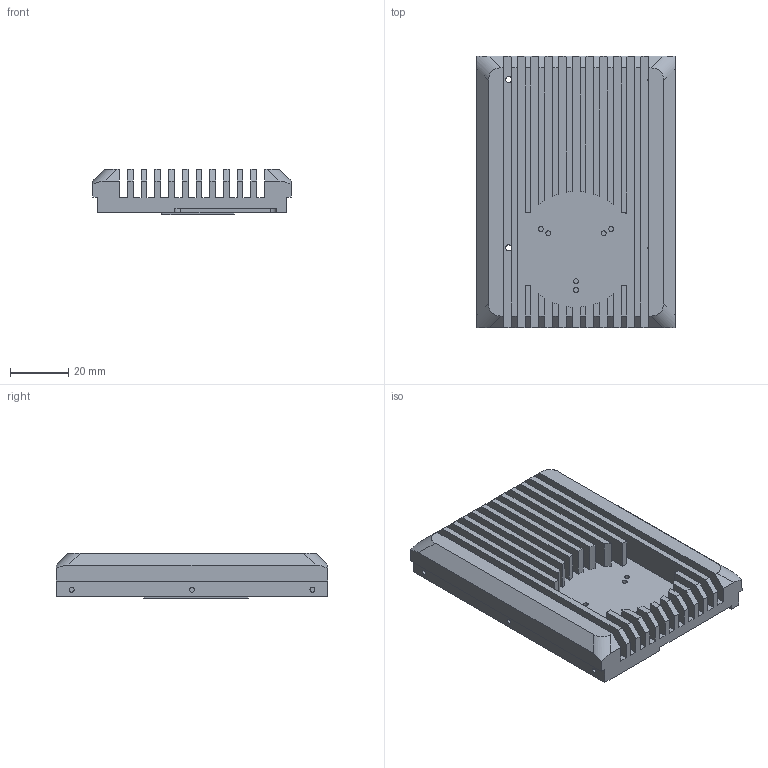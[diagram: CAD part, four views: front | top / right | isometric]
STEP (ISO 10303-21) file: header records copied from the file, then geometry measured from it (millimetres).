
FILE_DESCRIPTION((''),'2;1');
FILE_NAME('0_ROCK_PI_4_PL_01_7','2024-09-10T18:23:38',('admin'),(''),'CREO PARAMETRIC BY PTC INC, 2024103','CREO PARAMETRIC BY PTC INC, 2024103','');
FILE_SCHEMA(('CONFIG_CONTROL_DESIGN','SHAPE_APPEARANCE_LAYERS_GROUPS'));
Length unit declared in the file: millimetre
Products named in the file (1): 0_ROCK_PI_4_PL_01_7
Bounding box: 68.3 x 93.5 x 15.55 mm (x, y, z)
Volume: 58263.4 mm3; surface area: 31707.4 mm2
Topology: 1 solids, 1 shells, 204 faces, 558 edges, 370 vertices
Faces by surface type: plane 137, cylinder 67
Entity records: 8543 total; most frequent: CARTESIAN_POINT 1174, ORIENTED_EDGE 1116, DIRECTION 1094, PRESENTATION_STYLE_ASSIGNMENT 565, STYLED_ITEM 559, CURVE_STYLE 558, EDGE_CURVE 558, VECTOR 406
